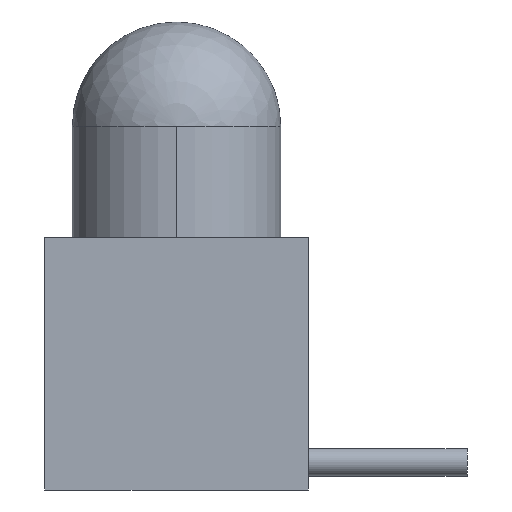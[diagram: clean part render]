
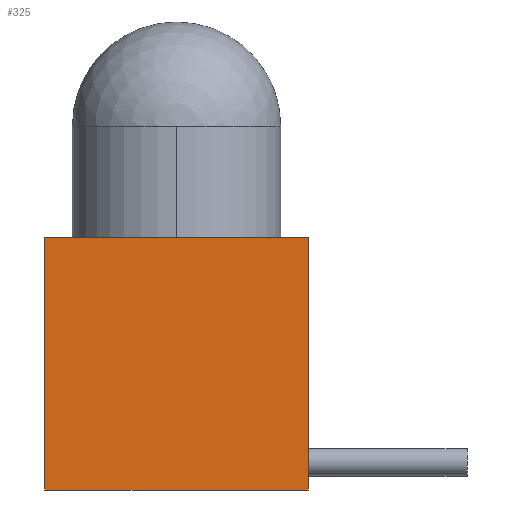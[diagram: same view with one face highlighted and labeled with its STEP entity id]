
A CAD part, left-side view. The second image highlights one B-rep face of the part: STEP entity #325.
In plain terms, the highlighted planar face has unit normal (-1, 0, 0).
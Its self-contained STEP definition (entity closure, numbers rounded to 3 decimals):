
#30 = DIRECTION ( 'NONE',  ( 0., 0., 1. ) ) ;
#31 = CARTESIAN_POINT ( 'NONE',  ( -3.05, 6.1, 0. ) ) ;
#77 = CARTESIAN_POINT ( 'NONE',  ( -3.05, 6.1, 0. ) ) ;
#84 = DIRECTION ( 'NONE',  ( 0., -1., 0. ) ) ;
#85 = DIRECTION ( 'NONE',  ( 0., -1., 0. ) ) ;
#92 = CARTESIAN_POINT ( 'NONE',  ( -3.05, 6.1, -5.84 ) ) ;
#110 = DIRECTION ( 'NONE',  ( 0., 0., -1. ) ) ;
#113 = DIRECTION ( 'NONE',  ( 0., 0., 1. ) ) ;
#115 = CARTESIAN_POINT ( 'NONE',  ( -3.05, 0., 0. ) ) ;
#116 = DIRECTION ( 'NONE',  ( 1., 0., 0. ) ) ;
#140 = CARTESIAN_POINT ( 'NONE',  ( -3.05, 6.1, 0. ) ) ;
#143 = PLANE ( 'NONE',  #498 ) ;
#189 = CARTESIAN_POINT ( 'NONE',  ( -3.05, 0., -5.84 ) ) ;
#190 = CARTESIAN_POINT ( 'NONE',  ( -3.05, 0., 0. ) ) ;
#193 = CARTESIAN_POINT ( 'NONE',  ( -3.05, 6.1, -5.84 ) ) ;
#194 = CARTESIAN_POINT ( 'NONE',  ( -3.05, 6.1, 0. ) ) ;
#310 = VERTEX_POINT ( 'NONE', #189 ) ;
#312 = VERTEX_POINT ( 'NONE', #190 ) ;
#319 = EDGE_LOOP ( 'NONE', ( #588, #587, #586, #585 ) ) ;
#320 = VERTEX_POINT ( 'NONE', #194 ) ;
#321 = VERTEX_POINT ( 'NONE', #193 ) ;
#325 = ADVANCED_FACE ( 'NONE', ( #632 ), #143, .F. ) ;
#363 = LINE ( 'NONE', #92, #364 ) ;
#364 = VECTOR ( 'NONE', #84, 1000. ) ;
#367 = LINE ( 'NONE', #77, #369 ) ;
#369 = VECTOR ( 'NONE', #85, 1000. ) ;
#384 = LINE ( 'NONE', #31, #387 ) ;
#387 = VECTOR ( 'NONE', #30, 1000. ) ;
#498 = AXIS2_PLACEMENT_3D ( 'NONE', #140, #116, #110 ) ;
#513 = EDGE_CURVE ( 'NONE', #310, #312, #709, .T. ) ;
#521 = EDGE_CURVE ( 'NONE', #321, #310, #363, .T. ) ;
#524 = EDGE_CURVE ( 'NONE', #320, #312, #367, .T. ) ;
#536 = EDGE_CURVE ( 'NONE', #321, #320, #384, .T. ) ;
#585 = ORIENTED_EDGE ( 'NONE', *, *, #521, .T. ) ;
#586 = ORIENTED_EDGE ( 'NONE', *, *, #536, .F. ) ;
#587 = ORIENTED_EDGE ( 'NONE', *, *, #524, .F. ) ;
#588 = ORIENTED_EDGE ( 'NONE', *, *, #513, .T. ) ;
#632 = FACE_OUTER_BOUND ( 'NONE', #319, .T. ) ;
#709 = LINE ( 'NONE', #115, #712 ) ;
#712 = VECTOR ( 'NONE', #113, 1000. ) ;
